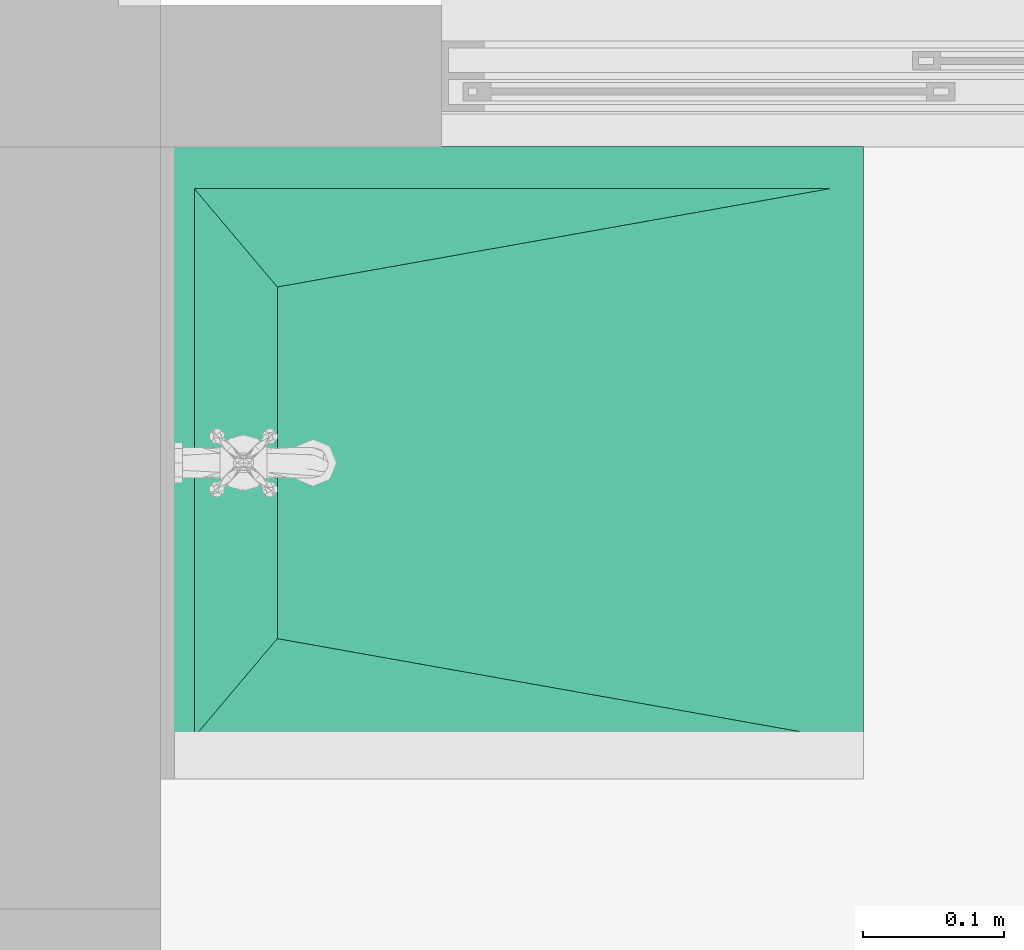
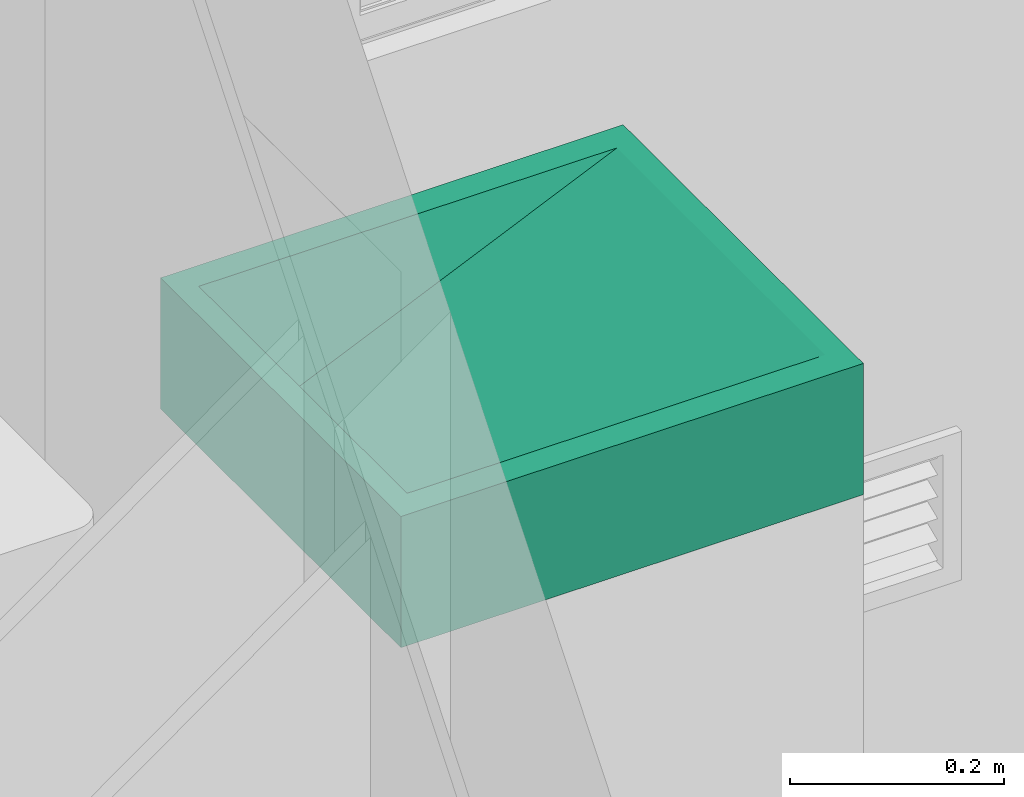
# One storey, part 37 of 47: 1 flow terminal.
"""IFC4 building model written with IfcOpenShell, lengths in metres."""

from ifc_helpers import new_model, entity, si_unit, converted_unit, derived_unit, direction, frame, origin, place, context, subcontext, project, spatial, polygons, source, transform, mapped, material, type_object, type_shapes, element, save


model = new_model("IFC4")

# Units and contexts
model_context = context("Model", 3, precision=1e-05, world=origin(), true_north=direction((6.123031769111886e-17, 1.0)))
body_context = subcontext(model_context, "Body", "Model", "MODEL_VIEW")
ifc_project = project(units=[si_unit("LENGTHUNIT", "METRE"), si_unit("AREAUNIT", "SQUARE_METRE"), si_unit("VOLUMEUNIT", "CUBIC_METRE"), converted_unit("PLANEANGLEUNIT", "DEGREE", entity("IfcRatioMeasure", 0.017453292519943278), si_unit("PLANEANGLEUNIT", "RADIAN"), dimensions=[0, 0, 0, 0, 0, 0, 0]), si_unit("MASSUNIT", "GRAM", prefix="KILO"), derived_unit("MASSDENSITYUNIT", [(si_unit("MASSUNIT", "GRAM", prefix="KILO"), 1), (si_unit("LENGTHUNIT", "METRE"), -3)]), derived_unit("IONCONCENTRATIONUNIT", [(si_unit("MASSUNIT", "GRAM", prefix="KILO"), 1), (si_unit("LENGTHUNIT", "METRE"), -3)]), derived_unit("MOMENTOFINERTIAUNIT", [(si_unit("LENGTHUNIT", "METRE"), 4)]), si_unit("TIMEUNIT", "SECOND"), si_unit("FREQUENCYUNIT", "HERTZ"), si_unit("THERMODYNAMICTEMPERATUREUNIT", "DEGREE_CELSIUS"), derived_unit("THERMALTRANSMITTANCEUNIT", [(si_unit("MASSUNIT", "GRAM", prefix="KILO"), 1), (si_unit("THERMODYNAMICTEMPERATUREUNIT", "KELVIN"), -1), (si_unit("TIMEUNIT", "SECOND"), -3)]), derived_unit("THERMALCONDUCTANCEUNIT", [(si_unit("MASSUNIT", "GRAM", prefix="KILO"), 1), (si_unit("THERMODYNAMICTEMPERATUREUNIT", "KELVIN"), -1), (si_unit("TIMEUNIT", "SECOND"), -3), (si_unit("LENGTHUNIT", "METRE"), 1)]), derived_unit("VOLUMETRICFLOWRATEUNIT", [(si_unit("LENGTHUNIT", "METRE"), 3), (si_unit("TIMEUNIT", "SECOND"), -1)]), derived_unit("MASSFLOWRATEUNIT", [(si_unit("MASSUNIT", "GRAM", prefix="KILO"), 1), (si_unit("TIMEUNIT", "SECOND"), -1)]), derived_unit("ROTATIONALFREQUENCYUNIT", [(si_unit("TIMEUNIT", "SECOND"), -1)]), si_unit("ELECTRICCURRENTUNIT", "AMPERE"), si_unit("ELECTRICVOLTAGEUNIT", "VOLT"), si_unit("POWERUNIT", "WATT"), si_unit("FORCEUNIT", "NEWTON", prefix="KILO"), si_unit("ILLUMINANCEUNIT", "LUX"), si_unit("LUMINOUSFLUXUNIT", "LUMEN"), si_unit("LUMINOUSINTENSITYUNIT", "CANDELA"), derived_unit("USERDEFINED", [(si_unit("MASSUNIT", "GRAM", prefix="KILO"), -1), (si_unit("LENGTHUNIT", "METRE"), -2), (si_unit("TIMEUNIT", "SECOND"), 3), (si_unit("LUMINOUSFLUXUNIT", "LUMEN"), 1)]), derived_unit("USERDEFINED", [(si_unit("MASSUNIT", "GRAM", prefix="KILO"), 1), (si_unit("TIMEUNIT", "SECOND"), -3), (si_unit("LENGTHUNIT", "METRE"), 3), (si_unit("ELECTRICCURRENTUNIT", "AMPERE"), -2)]), derived_unit("SOUNDPOWERUNIT", [(si_unit("MASSUNIT", "GRAM", prefix="KILO"), 1), (si_unit("TIMEUNIT", "SECOND"), -3), (si_unit("LENGTHUNIT", "METRE"), 2)]), derived_unit("SOUNDPRESSUREUNIT", [(si_unit("MASSUNIT", "GRAM", prefix="KILO"), 1), (si_unit("LENGTHUNIT", "METRE"), -1), (si_unit("TIMEUNIT", "SECOND"), -2)]), derived_unit("LINEARVELOCITYUNIT", [(si_unit("LENGTHUNIT", "METRE"), 1), (si_unit("TIMEUNIT", "SECOND"), -1)]), si_unit("PRESSUREUNIT", "PASCAL"), derived_unit("USERDEFINED", [(si_unit("MASSUNIT", "GRAM", prefix="KILO"), 1), (si_unit("LENGTHUNIT", "METRE"), -2), (si_unit("TIMEUNIT", "SECOND"), -2)]), derived_unit("LINEARFORCEUNIT", [(si_unit("MASSUNIT", "GRAM", prefix="KILO"), 1), (si_unit("TIMEUNIT", "SECOND"), -2)]), derived_unit("PLANARFORCEUNIT", [(si_unit("MASSUNIT", "GRAM", prefix="KILO"), 1), (si_unit("LENGTHUNIT", "METRE"), -1), (si_unit("TIMEUNIT", "SECOND"), -2)]), derived_unit("SPECIFICHEATCAPACITYUNIT", [(si_unit("THERMODYNAMICTEMPERATUREUNIT", "KELVIN"), -1), (si_unit("LENGTHUNIT", "METRE"), 2), (si_unit("TIMEUNIT", "SECOND"), -2)]), derived_unit("HEATINGVALUEUNIT", [(si_unit("LENGTHUNIT", "METRE"), 2), (si_unit("TIMEUNIT", "SECOND"), -2)]), derived_unit("VAPORPERMEABILITYUNIT", [(si_unit("LENGTHUNIT", "METRE"), -1), (si_unit("TIMEUNIT", "SECOND"), 1)]), derived_unit("DYNAMICVISCOSITYUNIT", [(si_unit("MASSUNIT", "GRAM", prefix="KILO"), 1), (si_unit("TIMEUNIT", "SECOND"), -1), (si_unit("LENGTHUNIT", "METRE"), -1)]), derived_unit("THERMALEXPANSIONCOEFFICIENTUNIT", [(si_unit("THERMODYNAMICTEMPERATUREUNIT", "KELVIN"), -1)]), derived_unit("MODULUSOFELASTICITYUNIT", [(si_unit("MASSUNIT", "GRAM", prefix="KILO"), 1), (si_unit("LENGTHUNIT", "METRE"), -1), (si_unit("TIMEUNIT", "SECOND"), -2)]), derived_unit("ISOTHERMALMOISTURECAPACITYUNIT", [(si_unit("LENGTHUNIT", "METRE"), 3), (si_unit("MASSUNIT", "GRAM", prefix="KILO"), -1)]), derived_unit("MOISTUREDIFFUSIVITYUNIT", [(si_unit("TIMEUNIT", "SECOND"), -1), (si_unit("LENGTHUNIT", "METRE"), 2)])], contexts=[model_context])

# Site, building, storey, space
site_placement = place(None, origin())
site = spatial("IfcSite", under=ifc_project, at=site_placement, Name="Default", CompositionType="ELEMENT")
building_placement = place(site_placement, origin())
building = spatial("IfcBuilding", under=site, at=building_placement, CompositionType="ELEMENT")
storey_placement = place(building_placement, frame((0.0, 0.0, 11.750000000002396)))
storey = spatial("IfcBuildingStorey", under=building, at=storey_placement, Name="Nivel 6", CompositionType="ELEMENT", Elevation=11.750000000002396)
space_placement = place(storey_placement, origin())
space = spatial("IfcSpace", under=storey, at=space_placement, Name="328", CompositionType="ELEMENT", PredefinedType="SPACE")

# Flow terminal
ifc_material = material(Name="Lavadero", Category="Materials")
distribution_element_type = type_object("IfcDistributionElementType", Name="D2010 - Lavadero - Granito:D2010 - Lavadero - Concreto", material=ifc_material)
shared_shape = source(origin(), body_context, "Body", "Tessellation", [
    polygons([(0.03000000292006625, 0.023999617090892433, 0.15000000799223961), (0.09992663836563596, 0.41697036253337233, 0.05000015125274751), (0.02999997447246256, 0.47600003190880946, 0.15000000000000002), (0.3500731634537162, 0.41697028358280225, 0.050000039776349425), (0.4199999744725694, 0.47600003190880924, 0.15000000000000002), (0.4199999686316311, 0.023999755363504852, 0.15000001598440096), (0.4499999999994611, -3.383959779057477e-17, 0.0), (0.4499999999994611, 0.5000004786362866, 0.0), (0.4499999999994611, 0.5000004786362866, 0.15000000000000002), (0.4499999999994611, -3.383959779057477e-17, 0.15000000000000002), (6.767919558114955e-17, 3.383959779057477e-17, 0.15000000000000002), (6.767919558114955e-17, 3.383959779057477e-17, 0.0), (6.767919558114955e-17, 0.5000004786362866, 0.15000000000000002), (6.767919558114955e-17, 0.5000004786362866, 0.0), (0.4199999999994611, 0.019999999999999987, 0.0), (0.4199999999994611, 0.4800004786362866, 0.0), (0.030000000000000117, 0.4800004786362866, 0.0), (0.030000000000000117, 0.019999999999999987, 0.0), (0.4199999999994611, 0.019999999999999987, 0.034883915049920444), (0.4199999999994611, 0.4800004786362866, 0.034883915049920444), (0.030000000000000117, 0.019999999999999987, 0.034883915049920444), (0.030000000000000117, 0.4800004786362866, 0.034883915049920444)], [[[1, 2, 3]], [[3, 2, 4, 5]], [[5, 4, 6]], [[2, 1, 6, 4]], [[7, 8, 9, 10]], [[7, 10, 11, 12]], [[12, 11, 13, 14]], [[9, 8, 14, 13]], [[8, 7, 12, 14], [15, 16, 17, 18]], [[10, 9, 13, 11], [1, 3, 5, 6]], [[19, 20, 16, 15]], [[21, 19, 15, 18]], [[22, 21, 18, 17]], [[20, 22, 17, 16]], [[20, 19, 21, 22]]], closed=True),
])
type_shapes(distribution_element_type, [shared_shape])
flow_terminal_placement = place(space_placement, frame((4.587500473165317, -8.175000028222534, 0.7799999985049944), z_axis=(0.0, 0.0, 1.0), x_axis=(0.0, 1.0, 0.0)))
element("IfcFlowTerminal", 1, at=flow_terminal_placement, inside=space, type_object=distribution_element_type, material=ifc_material, Name="D2010 - Lavadero - Granito:D2010 - Lavadero - Concreto", ObjectType="D2010 - Lavadero - Granito:D2010 - Lavadero - Concreto", context=body_context, shape_type="MappedRepresentation", body=[
    mapped(shared_shape, transform((0.0, 0.0, 0.0), scale=1.0)),
])

save(model, "model.ifc")
